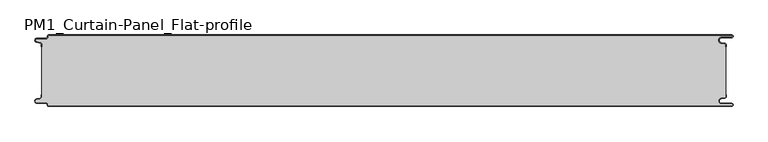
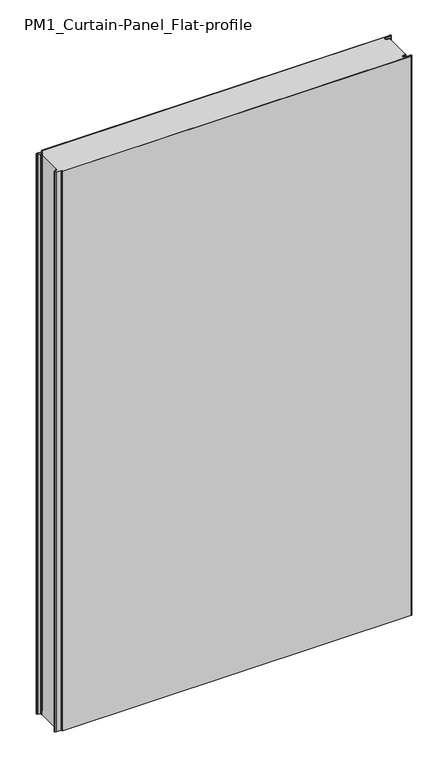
"""IFC4 building model written with IfcOpenShell, lengths in millimetres: plate geometry, PM1_Curtain-Panel_Flat-profile : ACH_PM1_Stone-wool-Panel_120M."""

from ifc_helpers import new_model, si_unit, point, frame_2d, origin, origin_with_axes, place, context, project, spatial, polyline, circle_curve, trimmed, segment, composite_curve, outline, extrude, source, transform, mapped, element, save


def pm1_curtain_panel_flat_profile_38d8eda8(model_context):
    return source(origin(), model_context, "Body", "SweptSolid", [
        extrude(outline(composite_curve([segment(polyline([(-562.4, 0.0), (583.1, 0.0)]), True, "CONTINUOUS"), segment(trimmed(circle_curve(frame_2d((583.1, -2.5)), 2.5), [point((583.1, 0.0))], [point((583.1, -5.0))], False, "CARTESIAN"), True, "CONTINUOUS"), segment(polyline([(583.1, -5.0), (566.1, -5.0)]), True, "CONTINUOUS"), segment(trimmed(circle_curve(frame_2d((566.1, -9.0)), 4.0), [point((566.1, -5.0))], [point((565.4054075, -12.939231))], True, "CARTESIAN"), True, "CONTINUOUS"), segment(polyline([(565.4054075, -12.939231), (571.8514851, -14.075848)]), True, "CONTINUOUS"), segment(trimmed(circle_curve(frame_2d((571.4, -16.636348)), 2.6), [point((571.8514851, -14.075848))], [point((574.0, -16.636348))], False, "CARTESIAN"), True, "CONTINUOUS"), segment(polyline([(574.0, -16.636348), (574.0, -20.0), (573.2, -20.0), (573.2, -16.636348)]), True, "CONTINUOUS"), segment(trimmed(circle_curve(frame_2d((571.4, -16.636348)), 1.8), [point((573.2, -16.636348))], [point((571.7125666, -14.863694))], True, "CARTESIAN"), True, "CONTINUOUS"), segment(polyline([(571.7125666, -14.863694), (565.266489, -13.7270771)]), True, "CONTINUOUS"), segment(trimmed(circle_curve(frame_2d((566.1, -9.0)), 4.8), [point((565.266489, -13.7270771))], [point((566.1, -4.2))], False, "CARTESIAN"), True, "CONTINUOUS"), segment(polyline([(566.1, -4.2), (583.1, -4.2)]), True, "CONTINUOUS"), segment(trimmed(circle_curve(frame_2d((583.1, -2.5)), 1.7), [point((583.1, -4.2))], [point((583.1, -0.8))], True, "CARTESIAN"), True, "CONTINUOUS"), segment(polyline([(583.1, -0.8), (-562.4, -0.8)]), True, "CONTINUOUS"), segment(trimmed(circle_curve(frame_2d((-562.4, -2.0)), 1.2), [point((-562.4, -0.8))], [point((-563.6, -2.0))], True, "CARTESIAN"), True, "CONTINUOUS"), segment(polyline([(-563.6, -2.0), (-563.6, -3.4)]), True, "CONTINUOUS"), segment(trimmed(circle_curve(frame_2d((-566.4, -3.4)), 2.8), [point((-563.6, -3.4))], [point((-566.4, -6.2))], False, "CARTESIAN"), True, "CONTINUOUS"), segment(polyline([(-566.4, -6.2), (-581.9, -6.2)]), True, "CONTINUOUS"), segment(trimmed(circle_curve(frame_2d((-581.9, -9.0)), 2.8), [point((-581.9, -6.2))], [point((-582.529863, -11.7282362))], True, "CARTESIAN"), True, "CONTINUOUS"), segment(polyline([(-582.529863, -11.7282362), (-576.370137, -13.150321)]), True, "CONTINUOUS"), segment(trimmed(circle_curve(frame_2d((-577.0, -15.878557)), 2.8), [point((-576.370137, -13.150321))], [point((-574.2, -15.878557))], False, "CARTESIAN"), True, "CONTINUOUS"), segment(polyline([(-574.2, -15.878557), (-574.2, -20.0), (-575.0, -20.0), (-575.0, -15.878557)]), True, "CONTINUOUS"), segment(trimmed(circle_curve(frame_2d((-577.0, -15.878557)), 2.0), [point((-575.0, -15.878557))], [point((-576.5500978, -13.9298169))], True, "CARTESIAN"), True, "CONTINUOUS"), segment(polyline([(-576.5500978, -13.9298169), (-582.7098239, -12.507732)]), True, "CONTINUOUS"), segment(trimmed(circle_curve(frame_2d((-581.9, -9.0)), 3.6), [point((-582.7098239, -12.507732))], [point((-581.9, -5.4))], False, "CARTESIAN"), True, "CONTINUOUS"), segment(polyline([(-581.9, -5.4), (-566.4, -5.4)]), True, "CONTINUOUS"), segment(trimmed(circle_curve(frame_2d((-566.4, -3.4)), 2.0), [point((-566.4, -5.4))], [point((-564.4, -3.4))], True, "CARTESIAN"), True, "CONTINUOUS"), segment(polyline([(-564.4, -3.4), (-564.4, -2.0)]), True, "CONTINUOUS"), segment(trimmed(circle_curve(frame_2d((-562.4, -2.0)), 2.0), [point((-564.4, -2.0))], [point((-562.4, 0.0))], False, "CARTESIAN"), True, "CONTINUOUS")], self_intersect=False)), origin_with_axes(), (0.0, 0.0, 1.0), 1945.7507136),
        extrude(outline(composite_curve([segment(polyline([(-574.2, -104.1214426), (-574.2, -15.8785573)]), True, "CONTINUOUS"), segment(trimmed(circle_curve(frame_2d((-577.0, -15.8785573)), 2.8), [point((-574.2, -15.8785573))], [point((-576.370137, -13.1503212))], True, "CARTESIAN"), True, "CONTINUOUS"), segment(polyline([(-576.370137, -13.1503212), (-582.5298631, -11.7282362)]), True, "CONTINUOUS"), segment(trimmed(circle_curve(frame_2d((-581.9, -9.0)), 2.8), [point((-582.5298631, -11.7282362))], [point((-581.9, -6.2))], False, "CARTESIAN"), True, "CONTINUOUS"), segment(polyline([(-581.9, -6.2), (-566.4000001, -6.2)]), True, "CONTINUOUS"), segment(trimmed(circle_curve(frame_2d((-566.4000001, -3.4)), 2.8), [point((-566.4000001, -6.2))], [point((-563.6000001, -3.4))], True, "CARTESIAN"), True, "CONTINUOUS"), segment(polyline([(-563.6000001, -3.4), (-563.6000001, -2.0)]), True, "CONTINUOUS"), segment(trimmed(circle_curve(frame_2d((-562.4000001, -2.0)), 1.2), [point((-563.6000001, -2.0))], [point((-562.4000001, -0.8))], False, "CARTESIAN"), True, "CONTINUOUS"), segment(polyline([(-562.4000001, -0.8), (583.1, -0.8)]), True, "CONTINUOUS"), segment(trimmed(circle_curve(frame_2d((583.1, -2.5)), 1.7), [point((583.1, -0.8))], [point((583.1, -4.2))], False, "CARTESIAN"), True, "CONTINUOUS"), segment(polyline([(583.1, -4.2), (566.1, -4.2)]), True, "CONTINUOUS"), segment(trimmed(circle_curve(frame_2d((566.1, -9.0)), 4.8), [point((566.1, -4.2))], [point((565.2664883, -13.7270771))], True, "CARTESIAN"), True, "CONTINUOUS"), segment(polyline([(565.2664883, -13.7270771), (571.7125668, -14.8636953)]), True, "CONTINUOUS"), segment(trimmed(circle_curve(frame_2d((571.4, -16.6363492)), 1.8), [point((571.7125668, -14.8636953))], [point((573.2, -16.6363492))], False, "CARTESIAN"), True, "CONTINUOUS"), segment(polyline([(573.2, -16.6363492), (573.2, -103.3636508)]), True, "CONTINUOUS"), segment(trimmed(circle_curve(frame_2d((571.4, -103.3636508)), 1.8), [point((573.2, -103.3636508))], [point((571.7125668, -105.1363047))], False, "CARTESIAN"), True, "CONTINUOUS"), segment(polyline([(571.7125668, -105.1363047), (565.2664883, -106.2729229)]), True, "CONTINUOUS"), segment(trimmed(circle_curve(frame_2d((566.1, -111.0)), 4.8), [point((565.2664883, -106.2729229))], [point((566.1, -115.8))], True, "CARTESIAN"), True, "CONTINUOUS"), segment(polyline([(566.1, -115.8), (583.1, -115.8)]), True, "CONTINUOUS"), segment(trimmed(circle_curve(frame_2d((583.1, -117.5)), 1.7), [point((583.1, -115.8))], [point((583.1, -119.2))], False, "CARTESIAN"), True, "CONTINUOUS"), segment(polyline([(583.1, -119.2), (-562.4000001, -119.2)]), True, "CONTINUOUS"), segment(trimmed(circle_curve(frame_2d((-562.4000001, -118.0)), 1.2), [point((-562.4000001, -119.2))], [point((-563.6000001, -118.0))], False, "CARTESIAN"), True, "CONTINUOUS"), segment(polyline([(-563.6000001, -118.0), (-563.6000001, -116.6)]), True, "CONTINUOUS"), segment(trimmed(circle_curve(frame_2d((-566.4000001, -116.6)), 2.8), [point((-563.6000001, -116.6))], [point((-566.4000001, -113.8))], True, "CARTESIAN"), True, "CONTINUOUS"), segment(polyline([(-566.4000001, -113.8), (-581.9, -113.8)]), True, "CONTINUOUS"), segment(trimmed(circle_curve(frame_2d((-581.9, -111.0)), 2.8), [point((-581.9, -113.8))], [point((-582.5298631, -108.2717638))], False, "CARTESIAN"), True, "CONTINUOUS"), segment(polyline([(-582.5298631, -108.2717638), (-576.370137, -106.8496788)]), True, "CONTINUOUS"), segment(trimmed(circle_curve(frame_2d((-577.0, -104.1214426)), 2.8), [point((-576.370137, -106.8496788))], [point((-574.2, -104.1214426))], True, "CARTESIAN"), True, "CONTINUOUS")], self_intersect=False)), origin_with_axes(), (0.0, 0.0, 1.0), 1945.7507136),
        extrude(outline(composite_curve([segment(polyline([(583.1, -120.0), (-562.4, -120.0)]), True, "CONTINUOUS"), segment(trimmed(circle_curve(frame_2d((-562.4, -118.0)), 2.0), [point((-562.4, -120.0))], [point((-564.4, -118.0))], False, "CARTESIAN"), True, "CONTINUOUS"), segment(polyline([(-564.4, -118.0), (-564.4, -116.6)]), True, "CONTINUOUS"), segment(trimmed(circle_curve(frame_2d((-566.4, -116.6)), 2.0), [point((-564.4, -116.6))], [point((-566.4, -114.6))], True, "CARTESIAN"), True, "CONTINUOUS"), segment(polyline([(-566.4, -114.6), (-581.9, -114.6)]), True, "CONTINUOUS"), segment(trimmed(circle_curve(frame_2d((-581.9, -111.0)), 3.6), [point((-581.9, -114.6))], [point((-582.7098239, -107.4922678))], False, "CARTESIAN"), True, "CONTINUOUS"), segment(polyline([(-582.7098239, -107.4922678), (-576.5500979, -106.070183)]), True, "CONTINUOUS"), segment(trimmed(circle_curve(frame_2d((-577.0, -104.121443)), 2.0), [point((-576.5500979, -106.070183))], [point((-575.0, -104.121443))], True, "CARTESIAN"), True, "CONTINUOUS"), segment(polyline([(-575.0, -104.121443), (-575.0, -100.0), (-574.2, -100.0), (-574.2, -104.121443)]), True, "CONTINUOUS"), segment(trimmed(circle_curve(frame_2d((-577.0, -104.121443)), 2.8), [point((-574.2, -104.121443))], [point((-576.370137, -106.8496792))], False, "CARTESIAN"), True, "CONTINUOUS"), segment(polyline([(-576.370137, -106.8496792), (-582.529863, -108.271764)]), True, "CONTINUOUS"), segment(trimmed(circle_curve(frame_2d((-581.9, -111.0)), 2.8), [point((-582.529863, -108.271764))], [point((-581.9, -113.8))], True, "CARTESIAN"), True, "CONTINUOUS"), segment(polyline([(-581.9, -113.8), (-566.4, -113.8)]), True, "CONTINUOUS"), segment(trimmed(circle_curve(frame_2d((-566.4, -116.6)), 2.8), [point((-566.4, -113.8))], [point((-563.6, -116.6))], False, "CARTESIAN"), True, "CONTINUOUS"), segment(polyline([(-563.6, -116.6), (-563.6, -118.0)]), True, "CONTINUOUS"), segment(trimmed(circle_curve(frame_2d((-562.4, -118.0)), 1.2), [point((-563.6, -118.0))], [point((-562.4, -119.2))], True, "CARTESIAN"), True, "CONTINUOUS"), segment(polyline([(-562.4, -119.2), (583.1, -119.2)]), True, "CONTINUOUS"), segment(trimmed(circle_curve(frame_2d((583.1, -117.5)), 1.7), [point((583.1, -119.2))], [point((583.1, -115.8))], True, "CARTESIAN"), True, "CONTINUOUS"), segment(polyline([(583.1, -115.8), (566.1, -115.8)]), True, "CONTINUOUS"), segment(trimmed(circle_curve(frame_2d((566.1, -111.0)), 4.8), [point((566.1, -115.8))], [point((565.266489, -106.2729227))], False, "CARTESIAN"), True, "CONTINUOUS"), segment(polyline([(565.266489, -106.2729227), (571.7125666, -105.1363058)]), True, "CONTINUOUS"), segment(trimmed(circle_curve(frame_2d((571.4, -103.363652)), 1.8), [point((571.7125666, -105.1363058))], [point((573.2, -103.363652))], True, "CARTESIAN"), True, "CONTINUOUS"), segment(polyline([(573.2, -103.363652), (573.2, -100.0), (574.0, -100.0), (574.0, -103.363652)]), True, "CONTINUOUS"), segment(trimmed(circle_curve(frame_2d((571.4, -103.363652)), 2.6), [point((574.0, -103.363652))], [point((571.8514851, -105.9241522))], False, "CARTESIAN"), True, "CONTINUOUS"), segment(polyline([(571.8514851, -105.9241522), (565.4054075, -107.0607691)]), True, "CONTINUOUS"), segment(trimmed(circle_curve(frame_2d((566.1, -111.0)), 4.0), [point((565.4054075, -107.0607691))], [point((566.1, -115.0))], True, "CARTESIAN"), True, "CONTINUOUS"), segment(polyline([(566.1, -115.0), (583.1, -115.0)]), True, "CONTINUOUS"), segment(trimmed(circle_curve(frame_2d((583.1, -117.5)), 2.5), [point((583.1, -115.0))], [point((583.1, -120.0))], False, "CARTESIAN"), True, "CONTINUOUS")], self_intersect=False)), origin_with_axes(), (0.0, 0.0, 1.0), 1945.7507136),
    ])


if __name__ == "__main__":
    model = new_model("IFC4")
    model_context = context("Model", 3, world=origin())
    ifc_project = project(units=[si_unit("LENGTHUNIT", "METRE", prefix="MILLI")], contexts=[model_context])
    site = spatial("IfcSite", under=ifc_project)
    building = spatial("IfcBuilding", under=site)
    placement = place(None, origin())
    pm1_curtain_panel_flat_profile_shape = pm1_curtain_panel_flat_profile_38d8eda8(model_context)
    element("IfcPlate", 1, ObjectType="PM1_Curtain-Panel_Flat-profile : ACH_PM1_Stone-wool-Panel_120M", at=placement, inside=building, context=model_context, shape_type="MappedRepresentation", body=[
        mapped(pm1_curtain_panel_flat_profile_shape, transform((0.0, 0.0, 0.0), x_axis=(1.0, 0.0, 0.0), y_axis=(0.0, 1.0, 0.0), z_axis=(0.0, 0.0, 1.0))),
    ])
    save(model, "model.ifc")
